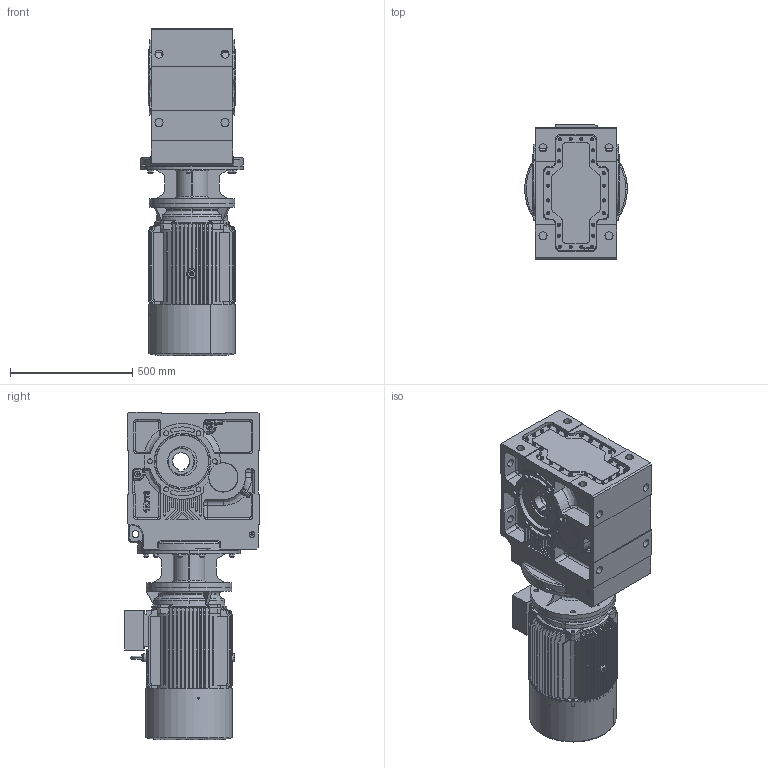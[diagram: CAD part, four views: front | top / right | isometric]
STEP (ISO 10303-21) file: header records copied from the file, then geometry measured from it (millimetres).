
FILE_DESCRIPTION (( 'STEP AP203' ), '1' );
FILE_NAME ('KV_773_0_M3-180L-4.STEP', '2019-07-18T10:09:37', ( '' ), ( '' ), 'SwSTEP 2.0', 'SolidWorks 2012', '' );
FILE_SCHEMA (( 'CONFIG_CONTROL_DESIGN' ));
Products named in the file (12): KV_773_0_M3-180L-4; M3-180L-FF-B5; Y2-180C++A+¦-¯ª¦+¦_-++ñ; Y2-180-4.6.8+ª-¯ª­-È®+_-++ñ; Y2-180-4.6.8-ª+---®+_-++ñ; Y2-180+¦i-_-++ñ; ML60A_Varsayìlan; Y2-180LB5+À+¿_-++ñ; Eyebolts GB_GB_FASTENER_SCREWS_FRS M12; KN_77_3_0_A-B18_B5_ML60A_0_0_0_0_0_0_0_0_0_0_0_0_M1; K773_Varsayìlan; 73180B5_Varsayìlan
Assembly tree (11 placements, depth 3):
  KV_773_0_M3-180L-4
    KN_77_3_0_A-B18_B5_ML60A_0_0_0_0_0_0_0_0_0_0_0_0_M1
      K773_Varsayìlan
      73180B5_Varsayìlan
      ML60A_Varsayìlan
    M3-180L-FF-B5
      Eyebolts GB_GB_FASTENER_SCREWS_FRS M12
      Y2-180LB5+À+¿_-++ñ
      Y2-180+¦i-_-++ñ
      Y2-180-4.6.8-ª+---®+_-++ñ
      Y2-180C++A+¦-¯ª¦+¦_-++ñ
      Y2-180-4.6.8+ª-¯ª­-È®+_-++ñ
Bounding box: 420 x 551.09 x 1338.5 mm (x, y, z)
Volume: 97180043.3 mm3; surface area: 5692154.2 mm2
Topology: 10 solids, 10 shells, 2773 faces, 7067 edges, 4454 vertices
Faces by surface type: plane 1147, cylinder 795, cone 528, bspline 267, torus 36
Entity records: 101786 total; most frequent: CARTESIAN_POINT 34777, ORIENTED_EDGE 14020, DIRECTION 13467, EDGE_CURVE 7010, AXIS2_PLACEMENT_3D 5042, VERTEX_POINT 4454, LINE 3383, VECTOR 3383
